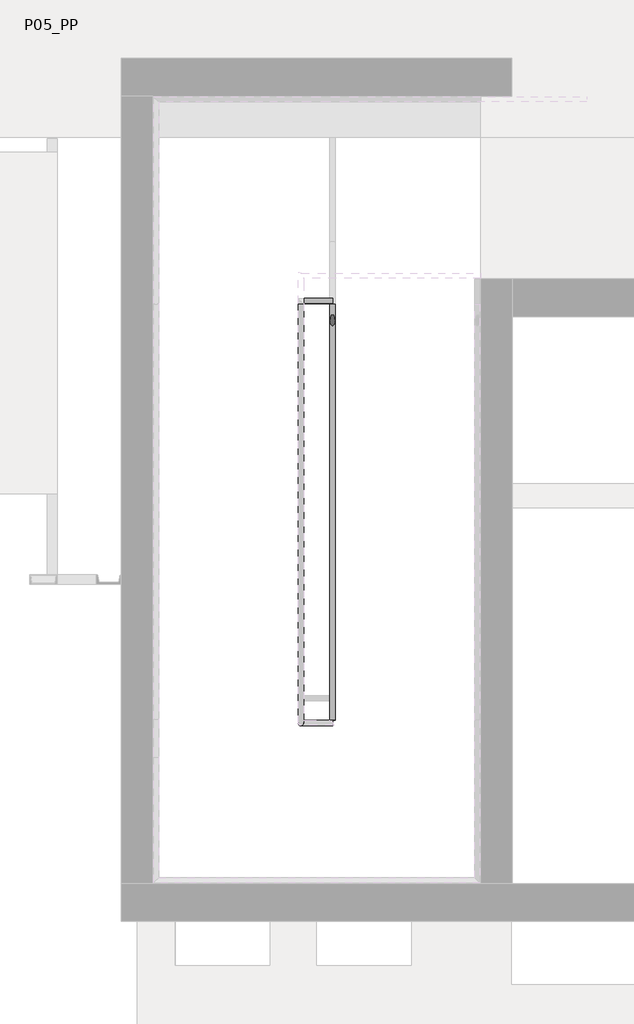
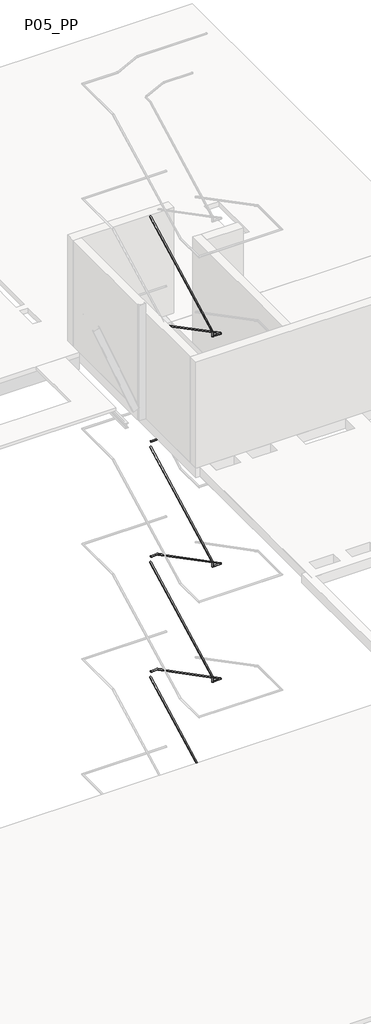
# One storey, part 6 of 7: 1 railing.
"""IFC4 building model written with IfcOpenShell, lengths in millimetres."""

from ifc_helpers import new_model, si_unit, frame, origin, place, context, project, spatial, circle_curve, ellipse_curve, element, save
from ifc_brep_helpers import plane_surface, cylinder_surface, advanced_brep

model = new_model("IFC4")

# Units and contexts
model_context = context("Model", 3, world=origin())
ifc_project = project(units=[si_unit("LENGTHUNIT", "METRE", prefix="MILLI")], contexts=[model_context])

# Site, building, storey
site = spatial("IfcSite", under=ifc_project)
building = spatial("IfcBuilding", under=site)
storey = spatial("IfcBuildingStorey", under=building, Name="P05_PP", Elevation=26160.0)

# Railing
placement = place(None, origin())
element("IfcRailing", 1, ObjectType="900mm_Pipe_Top Rail", at=placement, inside=storey, context=model_context, shape_type="AdvancedBrep", body=[
    advanced_brep(
    [(-12190.3216429, 12219.8932827, 27296.2500003), (-12190.3216429, 12259.8932827, 27296.2500003), (-11965.2146087, 12219.8932827, 27296.2500003), (-11965.2146087, 12259.8932827, 27296.2500003)],
    [
        (0, 1, circle_curve(frame((-12190.3216429, 12239.8932827, 27296.2500003), z_axis=(-1.0, 0.0, 0.0), x_axis=(0.0, 1.0, 0.0)), 20.0)),
        (1, 0, circle_curve(frame((-12190.3216429, 12239.8932827, 27296.2500003), z_axis=(-1.0, 0.0, 0.0), x_axis=(0.0, 1.0, 0.0)), 20.0)),
        (2, 3, circle_curve(frame((-11965.2146087, 12239.8932827, 27296.2500003), z_axis=(1.0, 0.0, 0.0), x_axis=(0.0, 1.0, 0.0)), 20.0)),
        (3, 2, circle_curve(frame((-11965.2146087, 12239.8932827, 27296.2500003), z_axis=(1.0, 0.0, 0.0), x_axis=(0.0, 1.0, 0.0)), 20.0)),
        (0, 2),
        (3, 1),
    ],
    [
        plane_surface(frame((-12190.3216429, 12239.8932827, 27316.2500003), z_axis=(-1.0, 0.0, 0.0), x_axis=(0.0, 1.0, 0.0))),
        plane_surface(frame((-11965.2146087, 12239.8932827, 27316.2500003), z_axis=(1.0, 0.0, 0.0), x_axis=(0.0, 1.0, 0.0))),
        cylinder_surface(frame((-12190.3216429, 12239.8932827, 27296.2500003), z_axis=(-1.0, 0.0, 0.0), x_axis=(0.0, 1.0, 0.0)), 20.0),
    ],
    [
        (0, [[1, 2]]),
        (1, [[3, 4]]),
        (2, [[-1, 5, -4, 6]]),
        (2, [[-2, -6, -3, -5]]),
    ],
),
    advanced_brep(
    [(-11965.2146087, 8909.8932827, 29015.0000003), (-11965.2146087, 8869.8932827, 29015.0000003), (-12215.3216429, 8909.8932827, 29015.0000003), (-12215.3216429, 8869.8932827, 29015.0000003)],
    [
        (0, 1, circle_curve(frame((-11965.2146087, 8889.8932827, 29015.0000003), z_axis=(1.0, 0.0, 0.0), x_axis=(0.0, -1.0, 0.0)), 20.0)),
        (1, 0, circle_curve(frame((-11965.2146087, 8889.8932827, 29015.0000003), z_axis=(1.0, 0.0, 0.0), x_axis=(0.0, -1.0, 0.0)), 20.0)),
        (2, 3, ellipse_curve(frame((-12215.3216429, 8889.8932827, 29015.0000003), z_axis=(-0.7071067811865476, 0.0, 0.7071067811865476), x_axis=(0.7071067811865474, 0.0, 0.7071067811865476)), 28.2842712, 20.0)),
        (3, 2, ellipse_curve(frame((-12215.3216429, 8889.8932827, 29015.0000003), z_axis=(-0.7071067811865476, 0.0, 0.7071067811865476), x_axis=(0.7071067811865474, 0.0, 0.7071067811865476)), 28.2842712, 20.0)),
        (0, 2),
        (3, 1),
    ],
    [
        plane_surface(frame((-11965.2146087, 8889.8932827, 29035.0000003), z_axis=(1.0, 0.0, 0.0), x_axis=(0.0, -1.0, 0.0))),
        plane_surface(frame((-12195.3216429, 8889.8932827, 29035.0000003), z_axis=(-0.7071067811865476, 0.0, 0.7071067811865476), x_axis=(0.7071067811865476, 0.0, 0.7071067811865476))),
        cylinder_surface(frame((-11965.2146087, 8889.8932827, 29015.0000003), z_axis=(1.0, 0.0, 0.0), x_axis=(0.0, -1.0, 0.0)), 20.0),
    ],
    [
        (0, [[1, 2]]),
        (1, [[3, 4]]),
        (2, [[-1, 5, -4, 6]]),
        (2, [[-2, -6, -3, -5]]),
    ],
),
    advanced_brep(
    [(-12195.3216429, 8889.8932827, 29155.6790684), (-12235.3216429, 8889.8932827, 29155.6790684), (-12195.3216429, 12214.8932827, 30887.4499018), (-12235.3216429, 12214.8932827, 30887.4499018)],
    [
        (0, 1, ellipse_curve(frame((-12215.3216429, 8889.8932827, 29155.6790684), z_axis=(0.0, -0.5186837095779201, -0.8549662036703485), x_axis=(0.0, -0.8549662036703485, 0.5186837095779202)), 23.3927375, 20.0)),
        (1, 0, ellipse_curve(frame((-12215.3216429, 8889.8932827, 29155.6790684), z_axis=(0.0, -0.5186837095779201, -0.8549662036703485), x_axis=(0.0, -0.8549662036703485, 0.5186837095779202)), 23.3927375, 20.0)),
        (2, 3, ellipse_curve(frame((-12215.3216429, 12214.8932827, 30887.4499018), z_axis=(0.0, 1.0, 0.0), x_axis=(0.0, 0.0, -1.0)), 22.5500985, 20.0)),
        (3, 2, ellipse_curve(frame((-12215.3216429, 12214.8932827, 30887.4499018), z_axis=(0.0, 1.0, 0.0), x_axis=(0.0, 0.0, -1.0)), 22.5500985, 20.0)),
        (0, 2),
        (3, 1),
    ],
    [
        plane_surface(frame((-12215.3216429, 8869.8932827, 29167.8125003), z_axis=(0.0, -0.5186837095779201, -0.8549662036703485), x_axis=(1.0, 0.0, 0.0))),
        plane_surface(frame((-12215.3216429, 12214.8932827, 30910.0000003), z_axis=(0.0, 1.0, 0.0), x_axis=(0.0, 0.0, 1.0))),
        cylinder_surface(frame((-12215.3216429, 8879.1319711, 29150.0742186), z_axis=(0.0, -0.8869140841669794, -0.46193441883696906), x_axis=(-1.0, 0.0, 0.0)), 20.0),
    ],
    [
        (0, [[1, 2]]),
        (1, [[3, 4]]),
        (2, [[-1, 5, -4, 6]]),
        (2, [[-2, -6, -3, -5]]),
    ],
),
    advanced_brep(
    [(-11985.2146087, 12214.8932827, 27293.6999018), (-11945.2146087, 12214.8932827, 27293.6999018), (-11985.2146087, 8914.8932827, 29012.4499018), (-11945.2146087, 8914.8932827, 29012.4499018)],
    [
        (0, 1, ellipse_curve(frame((-11965.2146087, 12214.8932827, 27293.6999018), z_axis=(0.0, 1.0, 0.0), x_axis=(0.0, 0.0, -1.0)), 22.5500985, 20.0)),
        (1, 0, ellipse_curve(frame((-11965.2146087, 12214.8932827, 27293.6999018), z_axis=(0.0, 1.0, 0.0), x_axis=(0.0, 0.0, -1.0)), 22.5500985, 20.0)),
        (2, 3, ellipse_curve(frame((-11965.2146087, 8914.8932827, 29012.4499018), z_axis=(0.0, -1.0, 0.0), x_axis=(0.0, 0.0, -1.0)), 22.5500985, 20.0)),
        (3, 2, ellipse_curve(frame((-11965.2146087, 8914.8932827, 29012.4499018), z_axis=(0.0, -1.0, 0.0), x_axis=(0.0, 0.0, -1.0)), 22.5500985, 20.0)),
        (0, 2),
        (3, 1),
    ],
    [
        plane_surface(frame((-11965.2146087, 12214.8932827, 27316.2500003), z_axis=(0.0, 1.0, 0.0), x_axis=(0.0, 0.0, -1.0))),
        plane_surface(frame((-11965.2146087, 8914.8932827, 29035.0000003), z_axis=(0.0, -1.0, 0.0), x_axis=(0.0, 0.0, -1.0))),
        cylinder_surface(frame((-11965.2146087, 12205.6545943, 27298.5117186), z_axis=(0.0, 0.8869140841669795, -0.4619344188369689), x_axis=(1.0, 0.0, 0.0)), 20.0),
    ],
    [
        (0, [[1, 2]]),
        (1, [[3, 4]]),
        (2, [[-1, 5, -4, 6]]),
        (2, [[-2, -6, -3, -5]]),
    ],
),
    advanced_brep(
    [(-12215.3216429, 8909.8932827, 29015.0000003), (-12215.3216429, 8869.8932827, 29015.0000003), (-12215.3216429, 8909.8932827, 29143.5456365), (-12215.3216429, 8869.8932827, 29167.8125003)],
    [
        (0, 1, ellipse_curve(frame((-12215.3216429, 8889.8932827, 29015.0000003), z_axis=(0.7071067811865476, 0.0, -0.7071067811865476), x_axis=(-0.7071067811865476, 0.0, -0.7071067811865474)), 28.2842712, 20.0)),
        (1, 0, ellipse_curve(frame((-12215.3216429, 8889.8932827, 29015.0000003), z_axis=(0.7071067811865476, 0.0, -0.7071067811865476), x_axis=(-0.7071067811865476, 0.0, -0.7071067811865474)), 28.2842712, 20.0)),
        (2, 3, ellipse_curve(frame((-12215.3216429, 8889.8932827, 29155.6790684), z_axis=(0.0, 0.5186837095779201, 0.8549662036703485), x_axis=(0.0, 0.8549662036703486, -0.5186837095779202)), 23.3927375, 20.0)),
        (3, 2, ellipse_curve(frame((-12215.3216429, 8889.8932827, 29155.6790684), z_axis=(0.0, 0.5186837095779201, 0.8549662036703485), x_axis=(0.0, 0.8549662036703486, -0.5186837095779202)), 23.3927375, 20.0)),
        (0, 2),
        (3, 1),
    ],
    [
        plane_surface(frame((-12215.3216429, 8889.8932827, 29015.0000003), z_axis=(0.7071067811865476, 0.0, -0.7071067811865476), x_axis=(0.7071067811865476, 0.0, 0.7071067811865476))),
        plane_surface(frame((-12215.3216429, 8889.8932827, 29155.6790684), z_axis=(0.0, 0.5186837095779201, 0.8549662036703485), x_axis=(1.0, 0.0, 0.0))),
        cylinder_surface(frame((-12215.3216429, 8889.8932827, 29015.0000003), z_axis=(0.0, 0.0, -1.0), x_axis=(0.0, -1.0, 0.0)), 20.0),
    ],
    [
        (0, [[1, 2]]),
        (1, [[3, 4]]),
        (2, [[-1, 5, -4, 6]]),
        (2, [[-2, -6, -3, -5]]),
    ],
),
    advanced_brep(
    [(-12190.3216429, 12219.8932827, 23546.2500003), (-12190.3216429, 12259.8932827, 23546.2500003), (-11965.2146087, 12219.8932827, 23546.2500003), (-11965.2146087, 12259.8932827, 23546.2500003)],
    [
        (0, 1, circle_curve(frame((-12190.3216429, 12239.8932827, 23546.2500003), z_axis=(-1.0, 0.0, 0.0), x_axis=(0.0, 1.0, 0.0)), 20.0)),
        (1, 0, circle_curve(frame((-12190.3216429, 12239.8932827, 23546.2500003), z_axis=(-1.0, 0.0, 0.0), x_axis=(0.0, 1.0, 0.0)), 20.0)),
        (2, 3, circle_curve(frame((-11965.2146087, 12239.8932827, 23546.2500003), z_axis=(1.0, 0.0, 0.0), x_axis=(0.0, 1.0, 0.0)), 20.0)),
        (3, 2, circle_curve(frame((-11965.2146087, 12239.8932827, 23546.2500003), z_axis=(1.0, 0.0, 0.0), x_axis=(0.0, 1.0, 0.0)), 20.0)),
        (0, 2),
        (3, 1),
    ],
    [
        plane_surface(frame((-12190.3216429, 12239.8932827, 23566.2500003), z_axis=(-1.0, 0.0, 0.0), x_axis=(0.0, 1.0, 0.0))),
        plane_surface(frame((-11965.2146087, 12239.8932827, 23566.2500003), z_axis=(1.0, 0.0, 0.0), x_axis=(0.0, 1.0, 0.0))),
        cylinder_surface(frame((-12190.3216429, 12239.8932827, 23546.2500003), z_axis=(-1.0, 0.0, 0.0), x_axis=(0.0, 1.0, 0.0)), 20.0),
    ],
    [
        (0, [[1, 2]]),
        (1, [[3, 4]]),
        (2, [[-1, 5, -4, 6]]),
        (2, [[-2, -6, -3, -5]]),
    ],
),
    advanced_brep(
    [(-11965.2146087, 8909.8932827, 25265.0000003), (-11965.2146087, 8869.8932827, 25265.0000003), (-12215.3216429, 8909.8932827, 25265.0000003), (-12215.3216429, 8869.8932827, 25265.0000003)],
    [
        (0, 1, circle_curve(frame((-11965.2146087, 8889.8932827, 25265.0000003), z_axis=(1.0, 0.0, 0.0), x_axis=(0.0, -1.0, 0.0)), 20.0)),
        (1, 0, circle_curve(frame((-11965.2146087, 8889.8932827, 25265.0000003), z_axis=(1.0, 0.0, 0.0), x_axis=(0.0, -1.0, 0.0)), 20.0)),
        (2, 3, ellipse_curve(frame((-12215.3216429, 8889.8932827, 25265.0000003), z_axis=(-0.7071067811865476, 0.0, 0.7071067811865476), x_axis=(0.7071067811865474, 0.0, 0.7071067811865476)), 28.2842712, 20.0)),
        (3, 2, ellipse_curve(frame((-12215.3216429, 8889.8932827, 25265.0000003), z_axis=(-0.7071067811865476, 0.0, 0.7071067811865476), x_axis=(0.7071067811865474, 0.0, 0.7071067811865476)), 28.2842712, 20.0)),
        (0, 2),
        (3, 1),
    ],
    [
        plane_surface(frame((-11965.2146087, 8889.8932827, 25285.0000003), z_axis=(1.0, 0.0, 0.0), x_axis=(0.0, -1.0, 0.0))),
        plane_surface(frame((-12195.3216429, 8889.8932827, 25285.0000003), z_axis=(-0.7071067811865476, 0.0, 0.7071067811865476), x_axis=(0.7071067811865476, 0.0, 0.7071067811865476))),
        cylinder_surface(frame((-11965.2146087, 8889.8932827, 25265.0000003), z_axis=(1.0, 0.0, 0.0), x_axis=(0.0, -1.0, 0.0)), 20.0),
    ],
    [
        (0, [[1, 2]]),
        (1, [[3, 4]]),
        (2, [[-1, 5, -4, 6]]),
        (2, [[-2, -6, -3, -5]]),
    ],
),
    advanced_brep(
    [(-12195.3216429, 8889.8932827, 25405.6790684), (-12235.3216429, 8889.8932827, 25405.6790684), (-12195.3216429, 12214.8932827, 27137.4499018), (-12235.3216429, 12214.8932827, 27137.4499018)],
    [
        (0, 1, ellipse_curve(frame((-12215.3216429, 8889.8932827, 25405.6790684), z_axis=(0.0, -0.5186837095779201, -0.8549662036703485), x_axis=(0.0, -0.8549662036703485, 0.5186837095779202)), 23.3927375, 20.0)),
        (1, 0, ellipse_curve(frame((-12215.3216429, 8889.8932827, 25405.6790684), z_axis=(0.0, -0.5186837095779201, -0.8549662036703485), x_axis=(0.0, -0.8549662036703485, 0.5186837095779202)), 23.3927375, 20.0)),
        (2, 3, ellipse_curve(frame((-12215.3216429, 12214.8932827, 27137.4499018), z_axis=(0.0, 1.0, 0.0), x_axis=(0.0, 0.0, -1.0)), 22.5500985, 20.0)),
        (3, 2, ellipse_curve(frame((-12215.3216429, 12214.8932827, 27137.4499018), z_axis=(0.0, 1.0, 0.0), x_axis=(0.0, 0.0, -1.0)), 22.5500985, 20.0)),
        (0, 2),
        (3, 1),
    ],
    [
        plane_surface(frame((-12215.3216429, 8869.8932827, 25417.8125003), z_axis=(0.0, -0.5186837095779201, -0.8549662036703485), x_axis=(1.0, 0.0, 0.0))),
        plane_surface(frame((-12215.3216429, 12214.8932827, 27160.0000003), z_axis=(0.0, 1.0, 0.0), x_axis=(0.0, 0.0, 1.0))),
        cylinder_surface(frame((-12215.3216429, 8879.1319711, 25400.0742186), z_axis=(0.0, -0.8869140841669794, -0.46193441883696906), x_axis=(-1.0, 0.0, 0.0)), 20.0),
    ],
    [
        (0, [[1, 2]]),
        (1, [[3, 4]]),
        (2, [[-1, 5, -4, 6]]),
        (2, [[-2, -6, -3, -5]]),
    ],
),
    advanced_brep(
    [(-11985.2146087, 12214.8932827, 23543.6999018), (-11945.2146087, 12214.8932827, 23543.6999018), (-11985.2146087, 8914.8932827, 25262.4499018), (-11945.2146087, 8914.8932827, 25262.4499018)],
    [
        (0, 1, ellipse_curve(frame((-11965.2146087, 12214.8932827, 23543.6999018), z_axis=(0.0, 1.0, 0.0), x_axis=(0.0, 0.0, -1.0)), 22.5500985, 20.0)),
        (1, 0, ellipse_curve(frame((-11965.2146087, 12214.8932827, 23543.6999018), z_axis=(0.0, 1.0, 0.0), x_axis=(0.0, 0.0, -1.0)), 22.5500985, 20.0)),
        (2, 3, ellipse_curve(frame((-11965.2146087, 8914.8932827, 25262.4499018), z_axis=(0.0, -1.0, 0.0), x_axis=(0.0, 0.0, -1.0)), 22.5500985, 20.0)),
        (3, 2, ellipse_curve(frame((-11965.2146087, 8914.8932827, 25262.4499018), z_axis=(0.0, -1.0, 0.0), x_axis=(0.0, 0.0, -1.0)), 22.5500985, 20.0)),
        (0, 2),
        (3, 1),
    ],
    [
        plane_surface(frame((-11965.2146087, 12214.8932827, 23566.2500003), z_axis=(0.0, 1.0, 0.0), x_axis=(0.0, 0.0, -1.0))),
        plane_surface(frame((-11965.2146087, 8914.8932827, 25285.0000003), z_axis=(0.0, -1.0, 0.0), x_axis=(0.0, 0.0, -1.0))),
        cylinder_surface(frame((-11965.2146087, 12205.6545943, 23548.5117186), z_axis=(0.0, 0.8869140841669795, -0.4619344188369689), x_axis=(1.0, 0.0, 0.0)), 20.0),
    ],
    [
        (0, [[1, 2]]),
        (1, [[3, 4]]),
        (2, [[-1, 5, -4, 6]]),
        (2, [[-2, -6, -3, -5]]),
    ],
),
    advanced_brep(
    [(-12215.3216429, 8909.8932827, 25265.0000003), (-12215.3216429, 8869.8932827, 25265.0000003), (-12215.3216429, 8909.8932827, 25393.5456365), (-12215.3216429, 8869.8932827, 25417.8125003)],
    [
        (0, 1, ellipse_curve(frame((-12215.3216429, 8889.8932827, 25265.0000003), z_axis=(0.7071067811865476, 0.0, -0.7071067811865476), x_axis=(-0.7071067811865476, 0.0, -0.7071067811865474)), 28.2842712, 20.0)),
        (1, 0, ellipse_curve(frame((-12215.3216429, 8889.8932827, 25265.0000003), z_axis=(0.7071067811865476, 0.0, -0.7071067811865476), x_axis=(-0.7071067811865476, 0.0, -0.7071067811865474)), 28.2842712, 20.0)),
        (2, 3, ellipse_curve(frame((-12215.3216429, 8889.8932827, 25405.6790684), z_axis=(0.0, 0.5186837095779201, 0.8549662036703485), x_axis=(0.0, 0.8549662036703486, -0.5186837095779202)), 23.3927375, 20.0)),
        (3, 2, ellipse_curve(frame((-12215.3216429, 8889.8932827, 25405.6790684), z_axis=(0.0, 0.5186837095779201, 0.8549662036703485), x_axis=(0.0, 0.8549662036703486, -0.5186837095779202)), 23.3927375, 20.0)),
        (0, 2),
        (3, 1),
    ],
    [
        plane_surface(frame((-12215.3216429, 8889.8932827, 25265.0000003), z_axis=(0.7071067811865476, 0.0, -0.7071067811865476), x_axis=(0.7071067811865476, 0.0, 0.7071067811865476))),
        plane_surface(frame((-12215.3216429, 8889.8932827, 25405.6790684), z_axis=(0.0, 0.5186837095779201, 0.8549662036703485), x_axis=(1.0, 0.0, 0.0))),
        cylinder_surface(frame((-12215.3216429, 8889.8932827, 25265.0000003), z_axis=(0.0, 0.0, -1.0), x_axis=(0.0, -1.0, 0.0)), 20.0),
    ],
    [
        (0, [[1, 2]]),
        (1, [[3, 4]]),
        (2, [[-1, 5, -4, 6]]),
        (2, [[-2, -6, -3, -5]]),
    ],
),
    advanced_brep(
    [(-12190.3216429, 12219.8932827, 19796.2500003), (-12190.3216429, 12259.8932827, 19796.2500003), (-11965.2146087, 12219.8932827, 19796.2500003), (-11965.2146087, 12259.8932827, 19796.2500003)],
    [
        (0, 1, circle_curve(frame((-12190.3216429, 12239.8932827, 19796.2500003), z_axis=(-1.0, 0.0, 0.0), x_axis=(0.0, 1.0, 0.0)), 20.0)),
        (1, 0, circle_curve(frame((-12190.3216429, 12239.8932827, 19796.2500003), z_axis=(-1.0, 0.0, 0.0), x_axis=(0.0, 1.0, 0.0)), 20.0)),
        (2, 3, circle_curve(frame((-11965.2146087, 12239.8932827, 19796.2500003), z_axis=(1.0, 0.0, 0.0), x_axis=(0.0, 1.0, 0.0)), 20.0)),
        (3, 2, circle_curve(frame((-11965.2146087, 12239.8932827, 19796.2500003), z_axis=(1.0, 0.0, 0.0), x_axis=(0.0, 1.0, 0.0)), 20.0)),
        (0, 2),
        (3, 1),
    ],
    [
        plane_surface(frame((-12190.3216429, 12239.8932827, 19816.2500003), z_axis=(-1.0, 0.0, 0.0), x_axis=(0.0, 1.0, 0.0))),
        plane_surface(frame((-11965.2146087, 12239.8932827, 19816.2500003), z_axis=(1.0, 0.0, 0.0), x_axis=(0.0, 1.0, 0.0))),
        cylinder_surface(frame((-12190.3216429, 12239.8932827, 19796.2500003), z_axis=(-1.0, 0.0, 0.0), x_axis=(0.0, 1.0, 0.0)), 20.0),
    ],
    [
        (0, [[1, 2]]),
        (1, [[3, 4]]),
        (2, [[-1, 5, -4, 6]]),
        (2, [[-2, -6, -3, -5]]),
    ],
),
    advanced_brep(
    [(-11965.2146087, 8909.8932827, 21515.0000003), (-11965.2146087, 8869.8932827, 21515.0000003), (-12215.3216429, 8909.8932827, 21515.0000003), (-12215.3216429, 8869.8932827, 21515.0000003)],
    [
        (0, 1, circle_curve(frame((-11965.2146087, 8889.8932827, 21515.0000003), z_axis=(1.0, 0.0, 0.0), x_axis=(0.0, -1.0, 0.0)), 20.0)),
        (1, 0, circle_curve(frame((-11965.2146087, 8889.8932827, 21515.0000003), z_axis=(1.0, 0.0, 0.0), x_axis=(0.0, -1.0, 0.0)), 20.0)),
        (2, 3, ellipse_curve(frame((-12215.3216429, 8889.8932827, 21515.0000003), z_axis=(-0.7071067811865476, 0.0, 0.7071067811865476), x_axis=(0.7071067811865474, 0.0, 0.7071067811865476)), 28.2842712, 20.0)),
        (3, 2, ellipse_curve(frame((-12215.3216429, 8889.8932827, 21515.0000003), z_axis=(-0.7071067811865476, 0.0, 0.7071067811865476), x_axis=(0.7071067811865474, 0.0, 0.7071067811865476)), 28.2842712, 20.0)),
        (0, 2),
        (3, 1),
    ],
    [
        plane_surface(frame((-11965.2146087, 8889.8932827, 21535.0000003), z_axis=(1.0, 0.0, 0.0), x_axis=(0.0, -1.0, 0.0))),
        plane_surface(frame((-12195.3216429, 8889.8932827, 21535.0000003), z_axis=(-0.7071067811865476, 0.0, 0.7071067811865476), x_axis=(0.7071067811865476, 0.0, 0.7071067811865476))),
        cylinder_surface(frame((-11965.2146087, 8889.8932827, 21515.0000003), z_axis=(1.0, 0.0, 0.0), x_axis=(0.0, -1.0, 0.0)), 20.0),
    ],
    [
        (0, [[1, 2]]),
        (1, [[3, 4]]),
        (2, [[-1, 5, -4, 6]]),
        (2, [[-2, -6, -3, -5]]),
    ],
),
    advanced_brep(
    [(-12195.3216429, 8889.8932827, 21655.6790684), (-12235.3216429, 8889.8932827, 21655.6790684), (-12195.3216429, 12214.8932827, 23387.4499018), (-12235.3216429, 12214.8932827, 23387.4499018)],
    [
        (0, 1, ellipse_curve(frame((-12215.3216429, 8889.8932827, 21655.6790684), z_axis=(0.0, -0.5186837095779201, -0.8549662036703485), x_axis=(0.0, -0.8549662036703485, 0.5186837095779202)), 23.3927375, 20.0)),
        (1, 0, ellipse_curve(frame((-12215.3216429, 8889.8932827, 21655.6790684), z_axis=(0.0, -0.5186837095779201, -0.8549662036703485), x_axis=(0.0, -0.8549662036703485, 0.5186837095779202)), 23.3927375, 20.0)),
        (2, 3, ellipse_curve(frame((-12215.3216429, 12214.8932827, 23387.4499018), z_axis=(0.0, 1.0, 0.0), x_axis=(0.0, 0.0, -1.0)), 22.5500985, 20.0)),
        (3, 2, ellipse_curve(frame((-12215.3216429, 12214.8932827, 23387.4499018), z_axis=(0.0, 1.0, 0.0), x_axis=(0.0, 0.0, -1.0)), 22.5500985, 20.0)),
        (0, 2),
        (3, 1),
    ],
    [
        plane_surface(frame((-12215.3216429, 8869.8932827, 21667.8125003), z_axis=(0.0, -0.5186837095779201, -0.8549662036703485), x_axis=(1.0, 0.0, 0.0))),
        plane_surface(frame((-12215.3216429, 12214.8932827, 23410.0000003), z_axis=(0.0, 1.0, 0.0), x_axis=(0.0, 0.0, 1.0))),
        cylinder_surface(frame((-12215.3216429, 8879.1319711, 21650.0742186), z_axis=(0.0, -0.8869140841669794, -0.46193441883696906), x_axis=(-1.0, 0.0, 0.0)), 20.0),
    ],
    [
        (0, [[1, 2]]),
        (1, [[3, 4]]),
        (2, [[-1, 5, -4, 6]]),
        (2, [[-2, -6, -3, -5]]),
    ],
),
    advanced_brep(
    [(-11985.2146087, 12214.8932827, 19793.6999018), (-11945.2146087, 12214.8932827, 19793.6999018), (-11985.2146087, 8914.8932827, 21512.4499018), (-11945.2146087, 8914.8932827, 21512.4499018)],
    [
        (0, 1, ellipse_curve(frame((-11965.2146087, 12214.8932827, 19793.6999018), z_axis=(0.0, 1.0, 0.0), x_axis=(0.0, 0.0, -1.0)), 22.5500985, 20.0)),
        (1, 0, ellipse_curve(frame((-11965.2146087, 12214.8932827, 19793.6999018), z_axis=(0.0, 1.0, 0.0), x_axis=(0.0, 0.0, -1.0)), 22.5500985, 20.0)),
        (2, 3, ellipse_curve(frame((-11965.2146087, 8914.8932827, 21512.4499018), z_axis=(0.0, -1.0, 0.0), x_axis=(0.0, 0.0, -1.0)), 22.5500985, 20.0)),
        (3, 2, ellipse_curve(frame((-11965.2146087, 8914.8932827, 21512.4499018), z_axis=(0.0, -1.0, 0.0), x_axis=(0.0, 0.0, -1.0)), 22.5500985, 20.0)),
        (0, 2),
        (3, 1),
    ],
    [
        plane_surface(frame((-11965.2146087, 12214.8932827, 19816.2500003), z_axis=(0.0, 1.0, 0.0), x_axis=(0.0, 0.0, -1.0))),
        plane_surface(frame((-11965.2146087, 8914.8932827, 21535.0000003), z_axis=(0.0, -1.0, 0.0), x_axis=(0.0, 0.0, -1.0))),
        cylinder_surface(frame((-11965.2146087, 12205.6545943, 19798.5117186), z_axis=(0.0, 0.8869140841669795, -0.4619344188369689), x_axis=(1.0, 0.0, 0.0)), 20.0),
    ],
    [
        (0, [[1, 2]]),
        (1, [[3, 4]]),
        (2, [[-1, 5, -4, 6]]),
        (2, [[-2, -6, -3, -5]]),
    ],
),
    advanced_brep(
    [(-12215.3216429, 8909.8932827, 21515.0000003), (-12215.3216429, 8869.8932827, 21515.0000003), (-12215.3216429, 8909.8932827, 21643.5456365), (-12215.3216429, 8869.8932827, 21667.8125003)],
    [
        (0, 1, ellipse_curve(frame((-12215.3216429, 8889.8932827, 21515.0000003), z_axis=(0.7071067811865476, 0.0, -0.7071067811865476), x_axis=(-0.7071067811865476, 0.0, -0.7071067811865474)), 28.2842712, 20.0)),
        (1, 0, ellipse_curve(frame((-12215.3216429, 8889.8932827, 21515.0000003), z_axis=(0.7071067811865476, 0.0, -0.7071067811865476), x_axis=(-0.7071067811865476, 0.0, -0.7071067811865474)), 28.2842712, 20.0)),
        (2, 3, ellipse_curve(frame((-12215.3216429, 8889.8932827, 21655.6790684), z_axis=(0.0, 0.5186837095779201, 0.8549662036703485), x_axis=(0.0, 0.8549662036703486, -0.5186837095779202)), 23.3927375, 20.0)),
        (3, 2, ellipse_curve(frame((-12215.3216429, 8889.8932827, 21655.6790684), z_axis=(0.0, 0.5186837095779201, 0.8549662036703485), x_axis=(0.0, 0.8549662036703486, -0.5186837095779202)), 23.3927375, 20.0)),
        (0, 2),
        (3, 1),
    ],
    [
        plane_surface(frame((-12215.3216429, 8889.8932827, 21515.0000003), z_axis=(0.7071067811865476, 0.0, -0.7071067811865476), x_axis=(0.7071067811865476, 0.0, 0.7071067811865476))),
        plane_surface(frame((-12215.3216429, 8889.8932827, 21655.6790684), z_axis=(0.0, 0.5186837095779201, 0.8549662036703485), x_axis=(1.0, 0.0, 0.0))),
        cylinder_surface(frame((-12215.3216429, 8889.8932827, 21515.0000003), z_axis=(0.0, 0.0, -1.0), x_axis=(0.0, -1.0, 0.0)), 20.0),
    ],
    [
        (0, [[1, 2]]),
        (1, [[3, 4]]),
        (2, [[-1, 5, -4, 6]]),
        (2, [[-2, -6, -3, -5]]),
    ],
),
    advanced_brep(
    [(-12190.3216429, 12219.8932827, 16046.2500003), (-12190.3216429, 12259.8932827, 16046.2500003), (-11965.2146087, 12219.8932827, 16046.2500003), (-11965.2146087, 12259.8932827, 16046.2500003)],
    [
        (0, 1, circle_curve(frame((-12190.3216429, 12239.8932827, 16046.2500003), z_axis=(-1.0, 0.0, 0.0), x_axis=(0.0, 1.0, 0.0)), 20.0)),
        (1, 0, circle_curve(frame((-12190.3216429, 12239.8932827, 16046.2500003), z_axis=(-1.0, 0.0, 0.0), x_axis=(0.0, 1.0, 0.0)), 20.0)),
        (2, 3, circle_curve(frame((-11965.2146087, 12239.8932827, 16046.2500003), z_axis=(1.0, 0.0, 0.0), x_axis=(0.0, 1.0, 0.0)), 20.0)),
        (3, 2, circle_curve(frame((-11965.2146087, 12239.8932827, 16046.2500003), z_axis=(1.0, 0.0, 0.0), x_axis=(0.0, 1.0, 0.0)), 20.0)),
        (0, 2),
        (3, 1),
    ],
    [
        plane_surface(frame((-12190.3216429, 12239.8932827, 16066.2500003), z_axis=(-1.0, 0.0, 0.0), x_axis=(0.0, 1.0, 0.0))),
        plane_surface(frame((-11965.2146087, 12239.8932827, 16066.2500003), z_axis=(1.0, 0.0, 0.0), x_axis=(0.0, 1.0, 0.0))),
        cylinder_surface(frame((-12190.3216429, 12239.8932827, 16046.2500003), z_axis=(-1.0, 0.0, 0.0), x_axis=(0.0, 1.0, 0.0)), 20.0),
    ],
    [
        (0, [[1, 2]]),
        (1, [[3, 4]]),
        (2, [[-1, 5, -4, 6]]),
        (2, [[-2, -6, -3, -5]]),
    ],
),
    advanced_brep(
    [(-11965.2146087, 8909.8932827, 17765.0000003), (-11965.2146087, 8869.8932827, 17765.0000003), (-12215.3216429, 8909.8932827, 17765.0000003), (-12215.3216429, 8869.8932827, 17765.0000003)],
    [
        (0, 1, circle_curve(frame((-11965.2146087, 8889.8932827, 17765.0000003), z_axis=(1.0, 0.0, 0.0), x_axis=(0.0, -1.0, 0.0)), 20.0)),
        (1, 0, circle_curve(frame((-11965.2146087, 8889.8932827, 17765.0000003), z_axis=(1.0, 0.0, 0.0), x_axis=(0.0, -1.0, 0.0)), 20.0)),
        (2, 3, ellipse_curve(frame((-12215.3216429, 8889.8932827, 17765.0000003), z_axis=(-0.7071067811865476, 0.0, 0.7071067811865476), x_axis=(0.7071067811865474, 0.0, 0.7071067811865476)), 28.2842712, 20.0)),
        (3, 2, ellipse_curve(frame((-12215.3216429, 8889.8932827, 17765.0000003), z_axis=(-0.7071067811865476, 0.0, 0.7071067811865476), x_axis=(0.7071067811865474, 0.0, 0.7071067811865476)), 28.2842712, 20.0)),
        (0, 2),
        (3, 1),
    ],
    [
        plane_surface(frame((-11965.2146087, 8889.8932827, 17785.0000003), z_axis=(1.0, 0.0, 0.0), x_axis=(0.0, -1.0, 0.0))),
        plane_surface(frame((-12195.3216429, 8889.8932827, 17785.0000003), z_axis=(-0.7071067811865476, 0.0, 0.7071067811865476), x_axis=(0.7071067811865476, 0.0, 0.7071067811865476))),
        cylinder_surface(frame((-11965.2146087, 8889.8932827, 17765.0000003), z_axis=(1.0, 0.0, 0.0), x_axis=(0.0, -1.0, 0.0)), 20.0),
    ],
    [
        (0, [[1, 2]]),
        (1, [[3, 4]]),
        (2, [[-1, 5, -4, 6]]),
        (2, [[-2, -6, -3, -5]]),
    ],
),
    advanced_brep(
    [(-12195.3216429, 8889.8932827, 17905.6790684), (-12235.3216429, 8889.8932827, 17905.6790684), (-12195.3216429, 12214.8932827, 19637.4499018), (-12235.3216429, 12214.8932827, 19637.4499018)],
    [
        (0, 1, ellipse_curve(frame((-12215.3216429, 8889.8932827, 17905.6790684), z_axis=(0.0, -0.5186837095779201, -0.8549662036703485), x_axis=(0.0, -0.8549662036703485, 0.5186837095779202)), 23.3927375, 20.0)),
        (1, 0, ellipse_curve(frame((-12215.3216429, 8889.8932827, 17905.6790684), z_axis=(0.0, -0.5186837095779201, -0.8549662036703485), x_axis=(0.0, -0.8549662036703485, 0.5186837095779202)), 23.3927375, 20.0)),
        (2, 3, ellipse_curve(frame((-12215.3216429, 12214.8932827, 19637.4499018), z_axis=(0.0, 1.0, 0.0), x_axis=(0.0, 0.0, -1.0)), 22.5500985, 20.0)),
        (3, 2, ellipse_curve(frame((-12215.3216429, 12214.8932827, 19637.4499018), z_axis=(0.0, 1.0, 0.0), x_axis=(0.0, 0.0, -1.0)), 22.5500985, 20.0)),
        (0, 2),
        (3, 1),
    ],
    [
        plane_surface(frame((-12215.3216429, 8869.8932827, 17917.8125003), z_axis=(0.0, -0.5186837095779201, -0.8549662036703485), x_axis=(1.0, 0.0, 0.0))),
        plane_surface(frame((-12215.3216429, 12214.8932827, 19660.0000003), z_axis=(0.0, 1.0, 0.0), x_axis=(0.0, 0.0, 1.0))),
        cylinder_surface(frame((-12215.3216429, 8879.1319711, 17900.0742186), z_axis=(0.0, -0.8869140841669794, -0.46193441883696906), x_axis=(-1.0, 0.0, 0.0)), 20.0),
    ],
    [
        (0, [[1, 2]]),
        (1, [[3, 4]]),
        (2, [[-1, 5, -4, 6]]),
        (2, [[-2, -6, -3, -5]]),
    ],
),
    advanced_brep(
    [(-11985.2146087, 12214.8932827, 16043.6999018), (-11945.2146087, 12214.8932827, 16043.6999018), (-11985.2146087, 8914.8932827, 17762.4499018), (-11945.2146087, 8914.8932827, 17762.4499018)],
    [
        (0, 1, ellipse_curve(frame((-11965.2146087, 12214.8932827, 16043.6999018), z_axis=(0.0, 1.0, 0.0), x_axis=(0.0, 0.0, -1.0)), 22.5500985, 20.0)),
        (1, 0, ellipse_curve(frame((-11965.2146087, 12214.8932827, 16043.6999018), z_axis=(0.0, 1.0, 0.0), x_axis=(0.0, 0.0, -1.0)), 22.5500985, 20.0)),
        (2, 3, ellipse_curve(frame((-11965.2146087, 8914.8932827, 17762.4499018), z_axis=(0.0, -1.0, 0.0), x_axis=(0.0, 0.0, -1.0)), 22.5500985, 20.0)),
        (3, 2, ellipse_curve(frame((-11965.2146087, 8914.8932827, 17762.4499018), z_axis=(0.0, -1.0, 0.0), x_axis=(0.0, 0.0, -1.0)), 22.5500985, 20.0)),
        (0, 2),
        (3, 1),
    ],
    [
        plane_surface(frame((-11965.2146087, 12214.8932827, 16066.2500003), z_axis=(0.0, 1.0, 0.0), x_axis=(0.0, 0.0, -1.0))),
        plane_surface(frame((-11965.2146087, 8914.8932827, 17785.0000003), z_axis=(0.0, -1.0, 0.0), x_axis=(0.0, 0.0, -1.0))),
        cylinder_surface(frame((-11965.2146087, 12205.6545943, 16048.5117186), z_axis=(0.0, 0.8869140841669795, -0.4619344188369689), x_axis=(1.0, 0.0, 0.0)), 20.0),
    ],
    [
        (0, [[1, 2]]),
        (1, [[3, 4]]),
        (2, [[-1, 5, -4, 6]]),
        (2, [[-2, -6, -3, -5]]),
    ],
),
    advanced_brep(
    [(-12215.3216429, 8909.8932827, 17765.0000003), (-12215.3216429, 8869.8932827, 17765.0000003), (-12215.3216429, 8909.8932827, 17893.5456365), (-12215.3216429, 8869.8932827, 17917.8125003)],
    [
        (0, 1, ellipse_curve(frame((-12215.3216429, 8889.8932827, 17765.0000003), z_axis=(0.7071067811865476, 0.0, -0.7071067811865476), x_axis=(-0.7071067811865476, 0.0, -0.7071067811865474)), 28.2842712, 20.0)),
        (1, 0, ellipse_curve(frame((-12215.3216429, 8889.8932827, 17765.0000003), z_axis=(0.7071067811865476, 0.0, -0.7071067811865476), x_axis=(-0.7071067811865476, 0.0, -0.7071067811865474)), 28.2842712, 20.0)),
        (2, 3, ellipse_curve(frame((-12215.3216429, 8889.8932827, 17905.6790684), z_axis=(0.0, 0.5186837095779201, 0.8549662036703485), x_axis=(0.0, 0.8549662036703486, -0.5186837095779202)), 23.3927375, 20.0)),
        (3, 2, ellipse_curve(frame((-12215.3216429, 8889.8932827, 17905.6790684), z_axis=(0.0, 0.5186837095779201, 0.8549662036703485), x_axis=(0.0, 0.8549662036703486, -0.5186837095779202)), 23.3927375, 20.0)),
        (0, 2),
        (3, 1),
    ],
    [
        plane_surface(frame((-12215.3216429, 8889.8932827, 17765.0000003), z_axis=(0.7071067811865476, 0.0, -0.7071067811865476), x_axis=(0.7071067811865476, 0.0, 0.7071067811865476))),
        plane_surface(frame((-12215.3216429, 8889.8932827, 17905.6790684), z_axis=(0.0, 0.5186837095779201, 0.8549662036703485), x_axis=(1.0, 0.0, 0.0))),
        cylinder_surface(frame((-12215.3216429, 8889.8932827, 17765.0000003), z_axis=(0.0, 0.0, -1.0), x_axis=(0.0, -1.0, 0.0)), 20.0),
    ],
    [
        (0, [[1, 2]]),
        (1, [[3, 4]]),
        (2, [[-1, 5, -4, 6]]),
        (2, [[-2, -6, -3, -5]]),
    ],
),
    advanced_brep(
    [(-12190.3216429, 12219.8932827, 12296.25), (-12190.3216429, 12259.8932827, 12296.25), (-11965.2146087, 12219.8932827, 12296.25), (-11965.2146087, 12259.8932827, 12296.25)],
    [
        (0, 1, circle_curve(frame((-12190.3216429, 12239.8932827, 12296.25), z_axis=(-1.0, 0.0, 0.0), x_axis=(0.0, 1.0, 0.0)), 20.0)),
        (1, 0, circle_curve(frame((-12190.3216429, 12239.8932827, 12296.25), z_axis=(-1.0, 0.0, 0.0), x_axis=(0.0, 1.0, 0.0)), 20.0)),
        (2, 3, circle_curve(frame((-11965.2146087, 12239.8932827, 12296.25), z_axis=(1.0, 0.0, 0.0), x_axis=(0.0, 1.0, 0.0)), 20.0)),
        (3, 2, circle_curve(frame((-11965.2146087, 12239.8932827, 12296.25), z_axis=(1.0, 0.0, 0.0), x_axis=(0.0, 1.0, 0.0)), 20.0)),
        (0, 2),
        (3, 1),
    ],
    [
        plane_surface(frame((-12190.3216429, 12239.8932827, 12316.25), z_axis=(-1.0, 0.0, 0.0), x_axis=(0.0, 1.0, 0.0))),
        plane_surface(frame((-11965.2146087, 12239.8932827, 12316.25), z_axis=(1.0, 0.0, 0.0), x_axis=(0.0, 1.0, 0.0))),
        cylinder_surface(frame((-12190.3216429, 12239.8932827, 12296.25), z_axis=(-1.0, 0.0, 0.0), x_axis=(0.0, 1.0, 0.0)), 20.0),
    ],
    [
        (0, [[1, 2]]),
        (1, [[3, 4]]),
        (2, [[-1, 5, -4, 6]]),
        (2, [[-2, -6, -3, -5]]),
    ],
),
    advanced_brep(
    [(-11965.2146087, 8909.8932827, 14015.0), (-11965.2146087, 8869.8932827, 14015.0), (-12215.3216429, 8909.8932827, 14015.0), (-12215.3216429, 8869.8932827, 14015.0)],
    [
        (0, 1, circle_curve(frame((-11965.2146087, 8889.8932827, 14015.0), z_axis=(1.0, 0.0, 0.0), x_axis=(0.0, -1.0, 0.0)), 20.0)),
        (1, 0, circle_curve(frame((-11965.2146087, 8889.8932827, 14015.0), z_axis=(1.0, 0.0, 0.0), x_axis=(0.0, -1.0, 0.0)), 20.0)),
        (2, 3, ellipse_curve(frame((-12215.3216429, 8889.8932827, 14015.0), z_axis=(-0.7071067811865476, 0.0, 0.7071067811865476), x_axis=(0.7071067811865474, 0.0, 0.7071067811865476)), 28.2842712, 20.0)),
        (3, 2, ellipse_curve(frame((-12215.3216429, 8889.8932827, 14015.0), z_axis=(-0.7071067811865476, 0.0, 0.7071067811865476), x_axis=(0.7071067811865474, 0.0, 0.7071067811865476)), 28.2842712, 20.0)),
        (0, 2),
        (3, 1),
    ],
    [
        plane_surface(frame((-11965.2146087, 8889.8932827, 14035.0), z_axis=(1.0, 0.0, 0.0), x_axis=(0.0, -1.0, 0.0))),
        plane_surface(frame((-12195.3216429, 8889.8932827, 14035.0), z_axis=(-0.7071067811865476, 0.0, 0.7071067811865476), x_axis=(0.7071067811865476, 0.0, 0.7071067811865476))),
        cylinder_surface(frame((-11965.2146087, 8889.8932827, 14015.0), z_axis=(1.0, 0.0, 0.0), x_axis=(0.0, -1.0, 0.0)), 20.0),
    ],
    [
        (0, [[1, 2]]),
        (1, [[3, 4]]),
        (2, [[-1, 5, -4, 6]]),
        (2, [[-2, -6, -3, -5]]),
    ],
),
    advanced_brep(
    [(-12195.3216429, 8889.8932827, 14155.6790681), (-12235.3216429, 8889.8932827, 14155.6790681), (-12195.3216429, 12214.8932827, 15887.4499015), (-12235.3216429, 12214.8932827, 15887.4499015)],
    [
        (0, 1, ellipse_curve(frame((-12215.3216429, 8889.8932827, 14155.6790681), z_axis=(0.0, -0.5186837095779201, -0.8549662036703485), x_axis=(0.0, -0.8549662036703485, 0.5186837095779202)), 23.3927375, 20.0)),
        (1, 0, ellipse_curve(frame((-12215.3216429, 8889.8932827, 14155.6790681), z_axis=(0.0, -0.5186837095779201, -0.8549662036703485), x_axis=(0.0, -0.8549662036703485, 0.5186837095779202)), 23.3927375, 20.0)),
        (2, 3, ellipse_curve(frame((-12215.3216429, 12214.8932827, 15887.4499015), z_axis=(0.0, 1.0, 0.0), x_axis=(0.0, 0.0, -1.0)), 22.5500985, 20.0)),
        (3, 2, ellipse_curve(frame((-12215.3216429, 12214.8932827, 15887.4499015), z_axis=(0.0, 1.0, 0.0), x_axis=(0.0, 0.0, -1.0)), 22.5500985, 20.0)),
        (0, 2),
        (3, 1),
    ],
    [
        plane_surface(frame((-12215.3216429, 8869.8932827, 14167.8125), z_axis=(0.0, -0.5186837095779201, -0.8549662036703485), x_axis=(1.0, 0.0, 0.0))),
        plane_surface(frame((-12215.3216429, 12214.8932827, 15910.0), z_axis=(0.0, 1.0, 0.0), x_axis=(0.0, 0.0, 1.0))),
        cylinder_surface(frame((-12215.3216429, 8879.1319711, 14150.0742183), z_axis=(0.0, -0.8869140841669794, -0.46193441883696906), x_axis=(-1.0, 0.0, 0.0)), 20.0),
    ],
    [
        (0, [[1, 2]]),
        (1, [[3, 4]]),
        (2, [[-1, 5, -4, 6]]),
        (2, [[-2, -6, -3, -5]]),
    ],
),
    advanced_brep(
    [(-11985.2146087, 12214.8932827, 12293.6999015), (-11945.2146087, 12214.8932827, 12293.6999015), (-11985.2146087, 8914.8932827, 14012.4499015), (-11945.2146087, 8914.8932827, 14012.4499015)],
    [
        (0, 1, ellipse_curve(frame((-11965.2146087, 12214.8932827, 12293.6999015), z_axis=(0.0, 1.0, 0.0), x_axis=(0.0, 0.0, -1.0)), 22.5500985, 20.0)),
        (1, 0, ellipse_curve(frame((-11965.2146087, 12214.8932827, 12293.6999015), z_axis=(0.0, 1.0, 0.0), x_axis=(0.0, 0.0, -1.0)), 22.5500985, 20.0)),
        (2, 3, ellipse_curve(frame((-11965.2146087, 8914.8932827, 14012.4499015), z_axis=(0.0, -1.0, 0.0), x_axis=(0.0, 0.0, -1.0)), 22.5500985, 20.0)),
        (3, 2, ellipse_curve(frame((-11965.2146087, 8914.8932827, 14012.4499015), z_axis=(0.0, -1.0, 0.0), x_axis=(0.0, 0.0, -1.0)), 22.5500985, 20.0)),
        (0, 2),
        (3, 1),
    ],
    [
        plane_surface(frame((-11965.2146087, 12214.8932827, 12316.25), z_axis=(0.0, 1.0, 0.0), x_axis=(0.0, 0.0, -1.0))),
        plane_surface(frame((-11965.2146087, 8914.8932827, 14035.0), z_axis=(0.0, -1.0, 0.0), x_axis=(0.0, 0.0, -1.0))),
        cylinder_surface(frame((-11965.2146087, 12205.6545943, 12298.5117183), z_axis=(0.0, 0.8869140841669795, -0.4619344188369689), x_axis=(1.0, 0.0, 0.0)), 20.0),
    ],
    [
        (0, [[1, 2]]),
        (1, [[3, 4]]),
        (2, [[-1, 5, -4, 6]]),
        (2, [[-2, -6, -3, -5]]),
    ],
),
    advanced_brep(
    [(-12215.3216429, 8909.8932827, 14015.0), (-12215.3216429, 8869.8932827, 14015.0), (-12215.3216429, 8909.8932827, 14143.5456362), (-12215.3216429, 8869.8932827, 14167.8125)],
    [
        (0, 1, ellipse_curve(frame((-12215.3216429, 8889.8932827, 14015.0), z_axis=(0.7071067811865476, 0.0, -0.7071067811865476), x_axis=(-0.7071067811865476, 0.0, -0.7071067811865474)), 28.2842712, 20.0)),
        (1, 0, ellipse_curve(frame((-12215.3216429, 8889.8932827, 14015.0), z_axis=(0.7071067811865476, 0.0, -0.7071067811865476), x_axis=(-0.7071067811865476, 0.0, -0.7071067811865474)), 28.2842712, 20.0)),
        (2, 3, ellipse_curve(frame((-12215.3216429, 8889.8932827, 14155.6790681), z_axis=(0.0, 0.5186837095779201, 0.8549662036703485), x_axis=(0.0, 0.8549662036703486, -0.5186837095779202)), 23.3927375, 20.0)),
        (3, 2, ellipse_curve(frame((-12215.3216429, 8889.8932827, 14155.6790681), z_axis=(0.0, 0.5186837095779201, 0.8549662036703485), x_axis=(0.0, 0.8549662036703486, -0.5186837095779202)), 23.3927375, 20.0)),
        (0, 2),
        (3, 1),
    ],
    [
        plane_surface(frame((-12215.3216429, 8889.8932827, 14015.0), z_axis=(0.7071067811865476, 0.0, -0.7071067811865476), x_axis=(0.7071067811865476, 0.0, 0.7071067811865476))),
        plane_surface(frame((-12215.3216429, 8889.8932827, 14155.6790681), z_axis=(0.0, 0.5186837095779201, 0.8549662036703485), x_axis=(1.0, 0.0, 0.0))),
        cylinder_surface(frame((-12215.3216429, 8889.8932827, 14015.0), z_axis=(0.0, 0.0, -1.0), x_axis=(0.0, -1.0, 0.0)), 20.0),
    ],
    [
        (0, [[1, 2]]),
        (1, [[3, 4]]),
        (2, [[-1, 5, -4, 6]]),
        (2, [[-2, -6, -3, -5]]),
    ],
),
])

save(model, "model.ifc")
